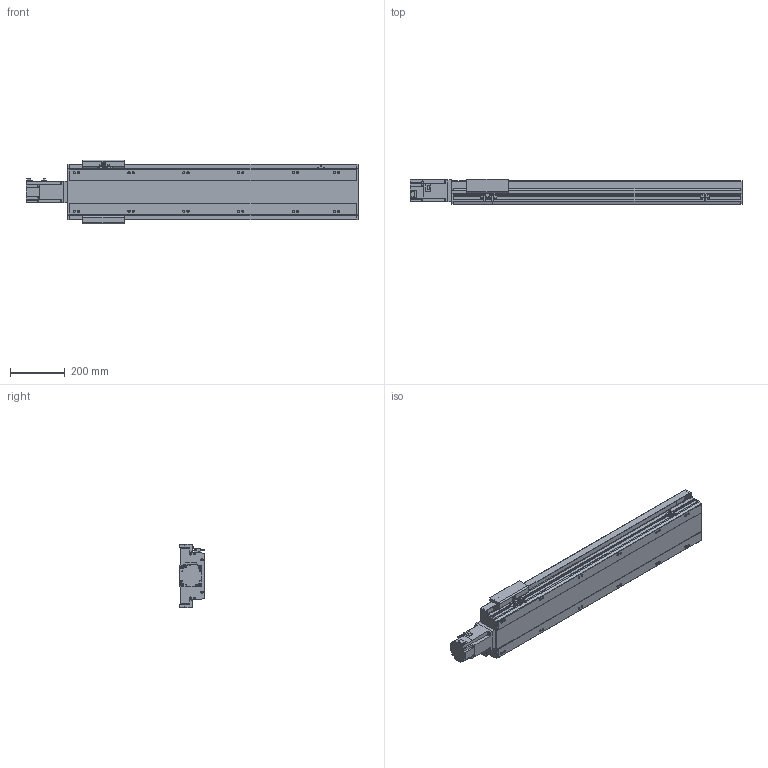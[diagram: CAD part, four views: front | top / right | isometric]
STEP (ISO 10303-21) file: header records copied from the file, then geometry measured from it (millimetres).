
FILE_DESCRIPTION(/* description */ ('STEP AP214'),/* implementation_level */ '2;1');
FILE_NAME(/* name */ 'PSM170-L10-S800-BC-T75-C1-N(0)',/* time_stamp */ '2022-06-29T08:54:16+02:00',/* author */ ('License CC BY-ND 4.0'),/* organization */ ('CADENAS'),/* preprocessor_version */ 'ST-DEVELOPER v18.102',/* originating_system */ 'PARTsolutions',/* authorisation */ ' ');
FILE_SCHEMA (('AUTOMOTIVE_DESIGN {1 0 10303 214 3 1 1}'));
Length unit declared in the file: millimetre
Products named in the file (8): PSM170-L10-S800-BC-T75-C1-N(0); PSM-Sensor; PSM140-S800-1042.5; T75-p1; PSM170_body2; PSM170_body3; PSM170-S800_body1; PSM170-L10-S800-BC-T75-C1-N(0)_dummy
Assembly tree (11 placements, depth 2):
  PSM170-L10-S800-BC-T75-C1-N(0)
    PSM-Sensor  x3
    PSM140-S800-1042.5  x3
    T75-p1
    PSM170_body2
    PSM170_body3
    PSM170-S800_body1
    PSM170-L10-S800-BC-T75-C1-N(0)_dummy
Bounding box: 1211.3 x 92 x 233 mm (x, y, z)
Volume: 7296557.7 mm3; surface area: 1399457.2 mm2
Topology: 10 solids, 10 shells, 1059 faces, 2828 edges, 1841 vertices
Faces by surface type: plane 660, cylinder 321, cone 64, torus 14
Full cylindrical faces by diameter (mm): 2.8 x3, 3.08 x1, 4.134 x4, 4.5 x12, 4.6 x3, 5.7 x2, 6 x9, 6.647 x20, 7 x8, 7.6 x4, 8 x8, 8.5 x12, 10 x4, 14 x12, 45 x1, 70 x1
Entity records: 27882 total; most frequent: CARTESIAN_POINT 5142, DIRECTION 4648, ORIENTED_EDGE 4460, EDGE_CURVE 2230, AXIS2_PLACEMENT_3D 1573, VERTEX_POINT 1562, LINE 1502, VECTOR 1502
